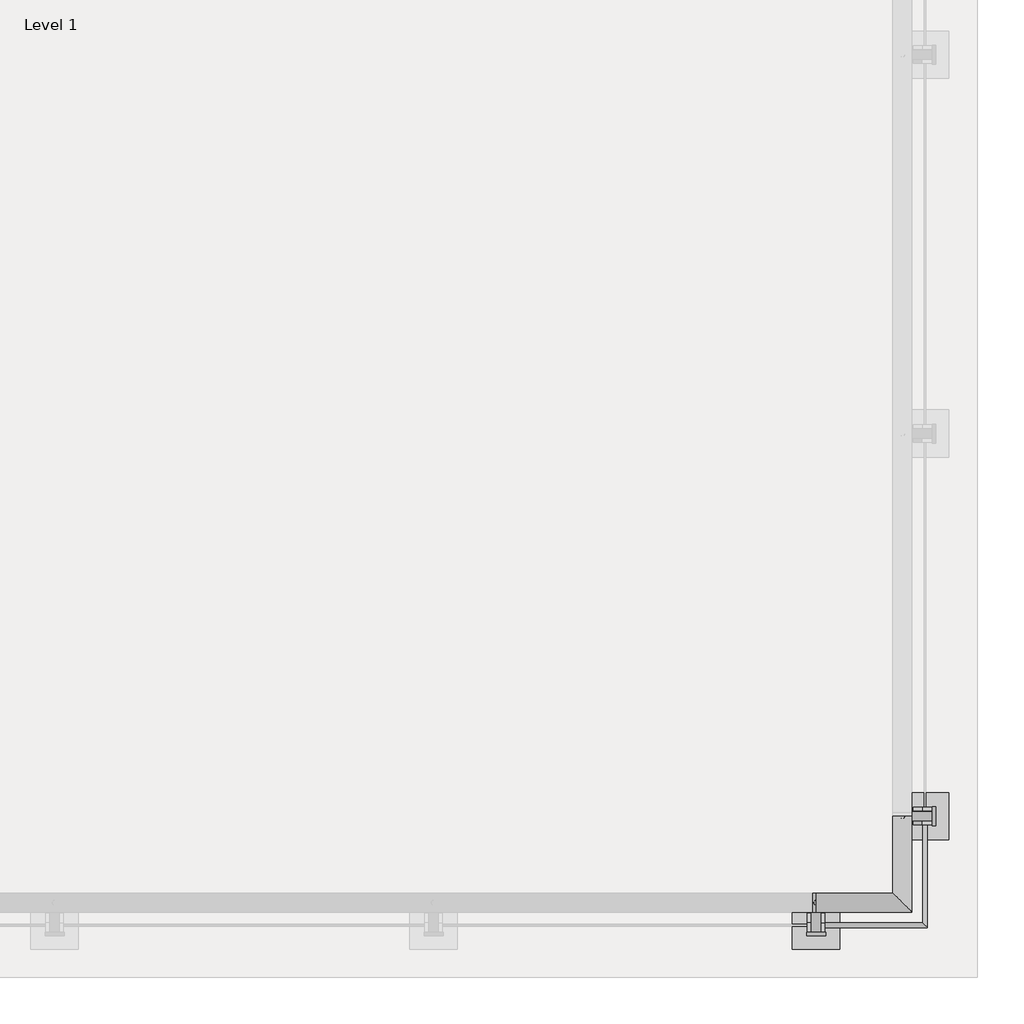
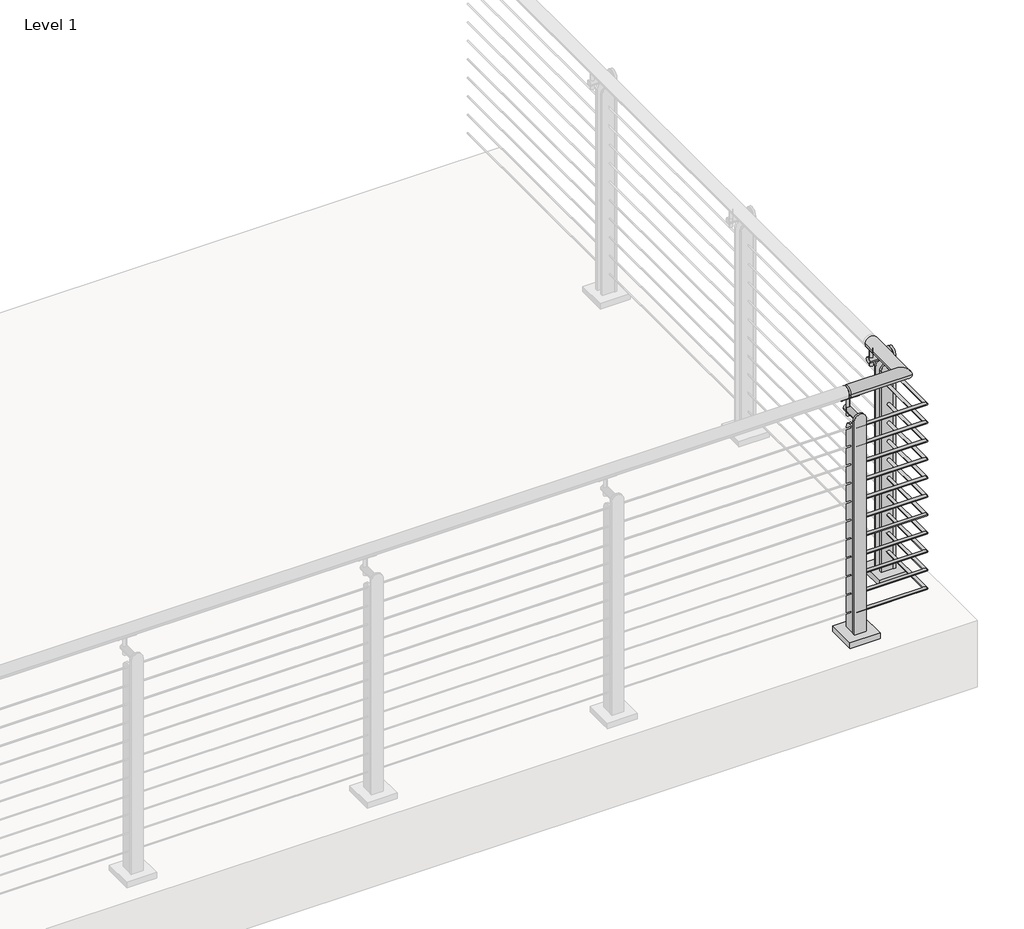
# One storey, part 4 of 9: 1 railing.
"""IFC4 building model written with IfcOpenShell, lengths in millimetres."""

import ifcopenshell
import ifcopenshell.guid

model = None  # the IFC model being written
_history = None  # IfcOwnerHistory: only IFC2X3 demands one
_inside = {}  # id of a spatial element -> (the spatial element, [elements in it])
_under = {}  # id of a project, library or spatial element -> (it, [spatial elements below it])
_declared = {}  # id of a project -> (the project, [libraries it declares])
_typed = {}  # id of a type object -> (the type object, [elements of that type])
_made_of = {}  # id of a material, layer set ... -> (it, [elements and type objects made of it])


def new_model(schema):
    """Start an empty IFC model of exactly this schema.

    Asked for "IFC4X3", IfcOpenShell would pick the latest addendum, in which some entities
    have other attributes; the version numbers below select the first issue.
    IFC2X3 requires an IfcOwnerHistory on every rooted entity: one is made here for all.
    """
    global model, _history
    if schema == "IFC4X3":
        model = ifcopenshell.file(schema_version=(4, 3, 0, 0))
    else:
        model = ifcopenshell.file(schema=schema)
    _inside.clear()
    _under.clear()
    _declared.clear()
    _typed.clear()
    _made_of.clear()
    _history = None
    if model.schema == "IFC2X3":
        org = make("IfcOrganization", Name="unknown")
        user = make(
            "IfcPersonAndOrganization",
            ThePerson=make("IfcPerson", FamilyName="unknown"),
            TheOrganization=org,
        )
        app = make(
            "IfcApplication",
            ApplicationDeveloper=org,
            Version="unknown",
            ApplicationFullName="unknown",
            ApplicationIdentifier="unknown",
        )
        _history = make(
            "IfcOwnerHistory",
            OwningUser=user,
            OwningApplication=app,
            ChangeAction="ADDED",
            CreationDate=0,
        )
    return model


def make(cls, **values):
    """One entity of the class cls with the attributes given. An attribute that is None is left unset."""
    return model.create_entity(
        cls, **{name: value for name, value in values.items() if value is not None}
    )


def rooted(cls, **values):
    """An entity with a GlobalId (a new one), such as an element, a storey or a relation."""
    return make(cls, GlobalId=ifcopenshell.guid.new(), OwnerHistory=_history, **values)


def si_unit(unit_type, name, prefix=None):
    """IfcSIUnit, for example si_unit("LENGTHUNIT", "METRE", prefix="MILLI")."""
    return make("IfcSIUnit", UnitType=unit_type, Prefix=prefix, Name=name)


def assignment(units):
    """IfcUnitAssignment: the units of a project."""
    return None if units is None else make("IfcUnitAssignment", Units=units)


def point(xyz):
    """IfcCartesianPoint."""
    return None if xyz is None else make("IfcCartesianPoint", Coordinates=xyz)


def direction(xyz):
    """IfcDirection."""
    return None if xyz is None else make("IfcDirection", DirectionRatios=xyz)


def frame(location, z_axis=None, x_axis=None):
    """IfcAxis2Placement3D, a coordinate frame: its origin and axes. An axis left out is left unset."""
    return make(
        "IfcAxis2Placement3D",
        Location=point(location),
        Axis=direction(z_axis),
        RefDirection=direction(x_axis),
    )


def frame_2d(location, x_axis=None):
    """IfcAxis2Placement2D, a coordinate frame in the plane: its origin and x axis."""
    return make(
        "IfcAxis2Placement2D", Location=point(location), RefDirection=direction(x_axis)
    )


def origin():
    """The frame at (0, 0, 0) with its axes left unset."""
    return frame((0.0, 0.0, 0.0))


def origin_with_axes():
    """The frame at (0, 0, 0) with the z axis (0, 0, 1) and the x axis (1, 0, 0) written out."""
    return frame((0.0, 0.0, 0.0), z_axis=(0.0, 0.0, 1.0), x_axis=(1.0, 0.0, 0.0))


def place(relative_to, where):
    """IfcLocalPlacement: puts the frame where relative to a parent placement (None: the world)."""
    return make(
        "IfcLocalPlacement", PlacementRelTo=relative_to, RelativePlacement=where
    )


def context(
    kind, dimensions, precision=None, world=None, true_north=None, identifier=None
):
    """IfcGeometricRepresentationContext, for example the 3D "Model" context."""
    return make(
        "IfcGeometricRepresentationContext",
        ContextIdentifier=identifier,
        ContextType=kind,
        CoordinateSpaceDimension=dimensions,
        Precision=precision,
        WorldCoordinateSystem=world,
        TrueNorth=true_north,
    )


def project(units=None, contexts=None):
    """IfcProject with its units and contexts."""
    return rooted(
        "IfcProject",
        Name="project",
        RepresentationContexts=contexts,
        UnitsInContext=assignment(units),
    )


def spatial(cls, under=None, at=None, **own):
    """A site, building, storey or space (cls), placed at a placement, below another one or the project."""
    s = rooted(cls, ObjectPlacement=at, **own)
    if under is not None:
        _under.setdefault(under.id(), (under, []))[1].append(s)
    return s


def polyline(points):
    """IfcPolyline through the points."""
    return make("IfcPolyline", Points=[point(p) for p in points])


def circle_curve(where, radius):
    """IfcCircle in the frame where."""
    return make("IfcCircle", Position=where, Radius=radius)


def ellipse_curve(where, semi_axis1, semi_axis2):
    """IfcEllipse in the frame where."""
    return make(
        "IfcEllipse", Position=where, SemiAxis1=semi_axis1, SemiAxis2=semi_axis2
    )


def trimmed(basis, trim1, trim2, sense, master):
    """IfcTrimmedCurve: the piece of a basis curve between two trims."""
    return make(
        "IfcTrimmedCurve",
        BasisCurve=basis,
        Trim1=trim1,
        Trim2=trim2,
        SenseAgreement=sense,
        MasterRepresentation=master,
    )


def segment(curve, same_sense, transition):
    """IfcCompositeCurveSegment."""
    return make(
        "IfcCompositeCurveSegment",
        Transition=transition,
        SameSense=same_sense,
        ParentCurve=curve,
    )


def composite_curve(segments, self_intersect=None):
    """IfcCompositeCurve: segments joined end to end."""
    return make("IfcCompositeCurve", Segments=segments, SelfIntersect=self_intersect)


def outline(outer, holes=None, kind="AREA"):
    """IfcArbitraryClosedProfileDef: a profile drawn as a closed curve; with holes, ...WithVoids."""
    if holes is None:
        return make("IfcArbitraryClosedProfileDef", ProfileType=kind, OuterCurve=outer)
    return make(
        "IfcArbitraryProfileDefWithVoids",
        ProfileType=kind,
        OuterCurve=outer,
        InnerCurves=holes,
    )


def extrude(swept, where, along, depth):
    """IfcExtrudedAreaSolid: the profile swept, set in the frame where, extruded along a direction by depth."""
    return make(
        "IfcExtrudedAreaSolid",
        SweptArea=swept,
        Position=where,
        ExtrudedDirection=direction(along),
        Depth=depth,
    )


def shape(context_of_items, identifier, shape_type, items):
    """IfcShapeRepresentation: the items that make up one representation, for example the "Body"."""
    return make(
        "IfcShapeRepresentation",
        ContextOfItems=context_of_items,
        RepresentationIdentifier=identifier,
        RepresentationType=shape_type,
        Items=items,
    )


def made_of(thing, what):
    """Note that an element or type object is made of a material, layer set ...; save() writes the relation."""
    if what is not None:
        _made_of.setdefault(what.id(), (what, []))[1].append(thing)
    return thing


def element(
    cls,
    number,
    at=None,
    inside=None,
    cuts=None,
    type_object=None,
    material=None,
    context=None,
    identifier="Body",
    shape_type=None,
    held_by="IfcProductDefinitionShape",
    body=None,
    shapes=None,
    **own,
):
    """One element of the class cls, such as IfcWall. Its Tag is "e" and its number.

    at: its placement. inside: the storey or other place that contains it. cuts: it is an
    opening in that element (IfcRelVoidsElement). A single representation is given by context,
    identifier, shape_type and body (its items); several are given by shapes. held_by: the class
    of the entity that holds the representations. save() writes the other relations.
    """
    e = rooted(cls, Tag="e%d" % number, ObjectPlacement=at, **own)
    if body is not None:
        shapes = [shape(context, identifier, shape_type, body)]
    if shapes is not None:
        e.Representation = make(held_by, Representations=shapes)
    if inside is not None:
        _inside.setdefault(inside.id(), (inside, []))[1].append(e)
    if cuts is not None:
        rooted(
            "IfcRelVoidsElement", RelatingBuildingElement=cuts, RelatedOpeningElement=e
        )
    if type_object is not None:
        _typed.setdefault(type_object.id(), (type_object, []))[1].append(e)
    return made_of(e, material)


def aggregate(whole, parts):
    """IfcRelAggregates: a whole, such as a stair, and the parts it consists of."""
    return rooted("IfcRelAggregates", RelatingObject=whole, RelatedObjects=parts)


def save(model, path):
    """Write the relations noted so far, then the file.

    IfcRelAggregates (storeys below a building ...), IfcRelContainedInSpatialStructure (elements
    in a storey), IfcRelDefinesByType, IfcRelAssociatesMaterial and IfcRelDeclares: one each for
    every whole, place, type object, material and project.
    """
    for whole, parts in _under.values():
        aggregate(whole, parts)
    for where, things in _inside.values():
        rooted(
            "IfcRelContainedInSpatialStructure",
            RelatedElements=things,
            RelatingStructure=where,
        )
    for kind, things in _typed.values():
        rooted("IfcRelDefinesByType", RelatedObjects=things, RelatingType=kind)
    for what, things in _made_of.values():
        rooted("IfcRelAssociatesMaterial", RelatedObjects=things, RelatingMaterial=what)
    for by, libraries in _declared.values():
        rooted("IfcRelDeclares", RelatingContext=by, RelatedDefinitions=libraries)
    model.write(path)


def plane_surface(at):
    """IfcPlane: the flat surface through the origin of the frame at, square to its z axis."""
    return make("IfcPlane", Position=at)


def cylinder_surface(at, radius):
    """IfcCylindricalSurface: all points at the distance radius from the z axis of the frame at."""
    return make("IfcCylindricalSurface", Position=at, Radius=radius)


def advanced_brep(points, edges, surfaces, faces):
    """IfcAdvancedBrep: a solid bounded by faces that lie on surfaces and meet in shared edges.

    An edge is (start, end): straight between two places in points (the first is 0);
    or (start, end, curve); or (start, end, curve, False) where it runs against its curve.
    A face is (place in surfaces, loops), or (place, loops, False) where it looks against
    its surface's normal. A loop lists edges by number (the first is 1), with a minus sign
    where the edge is run from its end to its start. The first loop is the outer one.
    """
    corners = [point(p) for p in points]
    vertices = [make("IfcVertexPoint", VertexGeometry=c) for c in corners]
    made = []
    for start, end, *more in edges:
        made.append(
            make(
                "IfcEdgeCurve",
                EdgeStart=vertices[start],
                EdgeEnd=vertices[end],
                EdgeGeometry=more[0] if more else make("IfcPolyline", Points=[corners[start], corners[end]]),
                SameSense=more[1] if len(more) > 1 else True,
            )
        )
    hull = []
    for where, loops, *sense in faces:
        bounds = []
        for j, loop in enumerate(loops):
            ring = [make("IfcOrientedEdge", EdgeElement=made[abs(k) - 1], Orientation=k > 0) for k in loop]
            bounds.append(
                make(
                    "IfcFaceOuterBound" if j == 0 else "IfcFaceBound",
                    Bound=make("IfcEdgeLoop", EdgeList=ring),
                    Orientation=True,
                )
            )
        hull.append(make("IfcAdvancedFace", Bounds=bounds, FaceSurface=surfaces[where], SameSense=sense[0] if sense else True))
    return make("IfcAdvancedBrep", Outer=make("IfcClosedShell", CfsFaces=hull))


model = new_model("IFC4")

# Units and contexts
model_context = context("Model", 3, world=origin())
ifc_project = project(units=[si_unit("LENGTHUNIT", "METRE", prefix="MILLI")], contexts=[model_context])

# Site, building, storey
site = spatial("IfcSite", under=ifc_project)
building = spatial("IfcBuilding", under=site)
storey = spatial("IfcBuildingStorey", under=building, Name="Level 1", Elevation=0.0)

# Railing
placement = place(None, origin())
element("IfcRailing", 1, ObjectType="VIVA-TEE-Cable-Floor Mount-Corner", at=placement, inside=storey, context=model_context, shape_type="SolidModel", body=[
    advanced_brep(
    [(-5377.0144753, -40358.8476373, 1054.1), (-5377.0144753, -40409.6476373, 1054.1), (-5119.8394753, -40409.6476373, 1054.1), (-5170.6394753, -40358.8476373, 1054.1), (-5386.7436688, -40409.6476373, 1054.1), (-5386.7436688, -40358.8476373, 1054.1), (-5119.8394753, -40152.4726373, 1054.1), (-5170.6394753, -40152.4726373, 1054.1)],
    [
        (0, 1, circle_curve(frame((-5377.0144753, -40384.2476373, 1054.1), z_axis=(1.0, 0.0, 0.0), x_axis=(0.0, 1.0, 0.0)), 25.4)),
        (1, 2),
        (2, 3, ellipse_curve(frame((-5145.2394753, -40384.2476373, 1054.1), z_axis=(-0.7071067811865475, -0.7071067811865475, 0.0), x_axis=(-0.7071067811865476, 0.7071067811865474, 0.0)), 35.9210245, 25.4)),
        (3, 0),
        (1, 0, circle_curve(frame((-5377.0144753, -40384.2476373, 1054.1), z_axis=(1.0, 0.0, 0.0), x_axis=(0.0, 1.0, 0.0)), 25.4)),
        (3, 2, ellipse_curve(frame((-5145.2394753, -40384.2476373, 1054.1), z_axis=(-0.7071067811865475, -0.7071067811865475, 0.0), x_axis=(-0.7071067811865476, 0.7071067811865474, 0.0)), 35.9210245, 25.4)),
        (4, 5, circle_curve(frame((-5386.7436688, -40384.2476373, 1054.1), z_axis=(-1.0, 0.0, 0.0), x_axis=(0.0, 1.0, 0.0)), 25.4)),
        (5, 4, circle_curve(frame((-5386.7436688, -40384.2476373, 1054.1), z_axis=(-1.0, 0.0, 0.0), x_axis=(0.0, 1.0, 0.0)), 25.4)),
        (4, 1),
        (0, 5),
        (6, 7, circle_curve(frame((-5145.2394753, -40152.4726373, 1054.1), z_axis=(0.0, 1.0, 0.0), x_axis=(-1.0, 0.0, 0.0)), 25.4)),
        (7, 6, circle_curve(frame((-5145.2394753, -40152.4726373, 1054.1), z_axis=(0.0, 1.0, 0.0), x_axis=(-1.0, 0.0, 0.0)), 25.4)),
        (2, 6),
        (7, 3),
    ],
    [
        cylinder_surface(frame((-5377.0144753, -40384.2476373, 1054.1), z_axis=(-1.0, 0.0, 0.0), x_axis=(0.0, 1.0, 0.0)), 25.4),
        plane_surface(frame((-5386.7436688, -40384.2476373, 1079.5), z_axis=(-1.0, 0.0, 0.0), x_axis=(0.0, 1.0, 0.0))),
        cylinder_surface(frame((-5386.7436688, -40384.2476373, 1054.1), z_axis=(-1.0, 0.0, 0.0), x_axis=(0.0, 1.0, 0.0)), 25.4),
        plane_surface(frame((-5145.2394753, -40152.4726373, 1079.5), z_axis=(0.0, 1.0, 0.0), x_axis=(0.0, 0.0, 1.0))),
        cylinder_surface(frame((-5145.2394753, -40384.2476373, 1054.1), z_axis=(0.0, -1.0, 0.0), x_axis=(-1.0, 0.0, 0.0)), 25.4),
    ],
    [
        (0, [[1, 2, 3, 4]]),
        (0, [[5, -4, 6, -2]]),
        (1, [[7, 8]]),
        (2, [[-7, 9, -1, 10]]),
        (2, [[-8, -10, -5, -9]]),
        (3, [[11, 12]]),
        (4, [[-3, 13, -12, 14]]),
        (4, [[-6, -14, -11, -13]]),
    ],
),
    advanced_brep(
    [(-5377.0144753, -40438.2226373, 933.45), (-5377.0144753, -40450.9226373, 933.45), (-5091.2644753, -40438.2226373, 933.45), (-5078.5644753, -40450.9226373, 933.45), (-5091.2644753, -40152.4726373, 933.45), (-5078.5644753, -40152.4726373, 933.45)],
    [
        (0, 1, circle_curve(frame((-5377.0144753, -40444.5726373, 933.45), z_axis=(-1.0, 0.0, 0.0), x_axis=(0.0, -1.0, 0.0)), 6.35)),
        (1, 0, circle_curve(frame((-5377.0144753, -40444.5726373, 933.45), z_axis=(-1.0, 0.0, 0.0), x_axis=(0.0, -1.0, 0.0)), 6.35)),
        (0, 2),
        (2, 3, ellipse_curve(frame((-5084.9144753, -40444.5726373, 933.45), z_axis=(-0.7071067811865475, -0.7071067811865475, 0.0), x_axis=(-0.7071067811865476, 0.7071067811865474, 0.0)), 8.9802561, 6.35)),
        (3, 1),
        (3, 2, ellipse_curve(frame((-5084.9144753, -40444.5726373, 933.45), z_axis=(-0.7071067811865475, -0.7071067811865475, 0.0), x_axis=(-0.7071067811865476, 0.7071067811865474, 0.0)), 8.9802561, 6.35)),
        (4, 5, circle_curve(frame((-5084.9144753, -40152.4726373, 933.45), z_axis=(0.0, 1.0, 0.0), x_axis=(1.0, 0.0, 0.0)), 6.35)),
        (5, 4, circle_curve(frame((-5084.9144753, -40152.4726373, 933.45), z_axis=(0.0, 1.0, 0.0), x_axis=(1.0, 0.0, 0.0)), 6.35)),
        (2, 4),
        (5, 3),
    ],
    [
        plane_surface(frame((-5377.0144753, -40444.5726373, 939.8), z_axis=(-1.0, 0.0, 0.0), x_axis=(0.0, 1.0, 0.0))),
        cylinder_surface(frame((-5377.0144753, -40444.5726373, 933.45), z_axis=(-1.0, 0.0, 0.0), x_axis=(0.0, -1.0, 0.0)), 6.35),
        plane_surface(frame((-5084.9144753, -40152.4726373, 939.8), z_axis=(0.0, 1.0, 0.0), x_axis=(0.0, 0.0, 1.0))),
        cylinder_surface(frame((-5084.9144753, -40444.5726373, 933.45), z_axis=(0.0, -1.0, 0.0), x_axis=(1.0, 0.0, 0.0)), 6.35),
    ],
    [
        (0, [[1, 2]]),
        (1, [[-1, 3, 4, 5]]),
        (1, [[-2, -5, 6, -3]]),
        (2, [[7, 8]]),
        (3, [[-4, 9, -8, 10]]),
        (3, [[-6, -10, -7, -9]]),
    ],
),
    advanced_brep(
    [(-5377.0144753, -40438.2226373, 850.9), (-5377.0144753, -40450.9226373, 850.9), (-5091.2644753, -40438.2226373, 850.9), (-5078.5644753, -40450.9226373, 850.9), (-5091.2644753, -40152.4726373, 850.9), (-5078.5644753, -40152.4726373, 850.9)],
    [
        (0, 1, circle_curve(frame((-5377.0144753, -40444.5726373, 850.9), z_axis=(-1.0, 0.0, 0.0), x_axis=(0.0, -1.0, 0.0)), 6.35)),
        (1, 0, circle_curve(frame((-5377.0144753, -40444.5726373, 850.9), z_axis=(-1.0, 0.0, 0.0), x_axis=(0.0, -1.0, 0.0)), 6.35)),
        (0, 2),
        (2, 3, ellipse_curve(frame((-5084.9144753, -40444.5726373, 850.9), z_axis=(-0.7071067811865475, -0.7071067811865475, 0.0), x_axis=(-0.7071067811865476, 0.7071067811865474, 0.0)), 8.9802561, 6.35)),
        (3, 1),
        (3, 2, ellipse_curve(frame((-5084.9144753, -40444.5726373, 850.9), z_axis=(-0.7071067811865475, -0.7071067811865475, 0.0), x_axis=(-0.7071067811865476, 0.7071067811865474, 0.0)), 8.9802561, 6.35)),
        (4, 5, circle_curve(frame((-5084.9144753, -40152.4726373, 850.9), z_axis=(0.0, 1.0, 0.0), x_axis=(1.0, 0.0, 0.0)), 6.35)),
        (5, 4, circle_curve(frame((-5084.9144753, -40152.4726373, 850.9), z_axis=(0.0, 1.0, 0.0), x_axis=(1.0, 0.0, 0.0)), 6.35)),
        (2, 4),
        (5, 3),
    ],
    [
        plane_surface(frame((-5377.0144753, -40444.5726373, 857.25), z_axis=(-1.0, 0.0, 0.0), x_axis=(0.0, 1.0, 0.0))),
        cylinder_surface(frame((-5377.0144753, -40444.5726373, 850.9), z_axis=(-1.0, 0.0, 0.0), x_axis=(0.0, -1.0, 0.0)), 6.35),
        plane_surface(frame((-5084.9144753, -40152.4726373, 857.25), z_axis=(0.0, 1.0, 0.0), x_axis=(0.0, 0.0, 1.0))),
        cylinder_surface(frame((-5084.9144753, -40444.5726373, 850.9), z_axis=(0.0, -1.0, 0.0), x_axis=(1.0, 0.0, 0.0)), 6.35),
    ],
    [
        (0, [[1, 2]]),
        (1, [[-1, 3, 4, 5]]),
        (1, [[-2, -5, 6, -3]]),
        (2, [[7, 8]]),
        (3, [[-4, 9, -8, 10]]),
        (3, [[-6, -10, -7, -9]]),
    ],
),
    advanced_brep(
    [(-5377.0144753, -40438.2226373, 768.35), (-5377.0144753, -40450.9226373, 768.35), (-5091.2644753, -40438.2226373, 768.35), (-5078.5644753, -40450.9226373, 768.35), (-5091.2644753, -40152.4726373, 768.35), (-5078.5644753, -40152.4726373, 768.35)],
    [
        (0, 1, circle_curve(frame((-5377.0144753, -40444.5726373, 768.35), z_axis=(-1.0, 0.0, 0.0), x_axis=(0.0, -1.0, 0.0)), 6.35)),
        (1, 0, circle_curve(frame((-5377.0144753, -40444.5726373, 768.35), z_axis=(-1.0, 0.0, 0.0), x_axis=(0.0, -1.0, 0.0)), 6.35)),
        (0, 2),
        (2, 3, ellipse_curve(frame((-5084.9144753, -40444.5726373, 768.35), z_axis=(-0.7071067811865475, -0.7071067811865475, 0.0), x_axis=(-0.7071067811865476, 0.7071067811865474, 0.0)), 8.9802561, 6.35)),
        (3, 1),
        (3, 2, ellipse_curve(frame((-5084.9144753, -40444.5726373, 768.35), z_axis=(-0.7071067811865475, -0.7071067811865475, 0.0), x_axis=(-0.7071067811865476, 0.7071067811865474, 0.0)), 8.9802561, 6.35)),
        (4, 5, circle_curve(frame((-5084.9144753, -40152.4726373, 768.35), z_axis=(0.0, 1.0, 0.0), x_axis=(1.0, 0.0, 0.0)), 6.35)),
        (5, 4, circle_curve(frame((-5084.9144753, -40152.4726373, 768.35), z_axis=(0.0, 1.0, 0.0), x_axis=(1.0, 0.0, 0.0)), 6.35)),
        (2, 4),
        (5, 3),
    ],
    [
        plane_surface(frame((-5377.0144753, -40444.5726373, 774.7), z_axis=(-1.0, 0.0, 0.0), x_axis=(0.0, 1.0, 0.0))),
        cylinder_surface(frame((-5377.0144753, -40444.5726373, 768.35), z_axis=(-1.0, 0.0, 0.0), x_axis=(0.0, -1.0, 0.0)), 6.35),
        plane_surface(frame((-5084.9144753, -40152.4726373, 774.7), z_axis=(0.0, 1.0, 0.0), x_axis=(0.0, 0.0, 1.0))),
        cylinder_surface(frame((-5084.9144753, -40444.5726373, 768.35), z_axis=(0.0, -1.0, 0.0), x_axis=(1.0, 0.0, 0.0)), 6.35),
    ],
    [
        (0, [[1, 2]]),
        (1, [[-1, 3, 4, 5]]),
        (1, [[-2, -5, 6, -3]]),
        (2, [[7, 8]]),
        (3, [[-4, 9, -8, 10]]),
        (3, [[-6, -10, -7, -9]]),
    ],
),
    advanced_brep(
    [(-5377.0144753, -40438.2226373, 685.8), (-5377.0144753, -40450.9226373, 685.8), (-5091.2644753, -40438.2226373, 685.8), (-5078.5644753, -40450.9226373, 685.8), (-5091.2644753, -40152.4726373, 685.8), (-5078.5644753, -40152.4726373, 685.8)],
    [
        (0, 1, circle_curve(frame((-5377.0144753, -40444.5726373, 685.8), z_axis=(-1.0, 0.0, 0.0), x_axis=(0.0, -1.0, 0.0)), 6.35)),
        (1, 0, circle_curve(frame((-5377.0144753, -40444.5726373, 685.8), z_axis=(-1.0, 0.0, 0.0), x_axis=(0.0, -1.0, 0.0)), 6.35)),
        (0, 2),
        (2, 3, ellipse_curve(frame((-5084.9144753, -40444.5726373, 685.8), z_axis=(-0.7071067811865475, -0.7071067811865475, 0.0), x_axis=(-0.7071067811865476, 0.7071067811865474, 0.0)), 8.9802561, 6.35)),
        (3, 1),
        (3, 2, ellipse_curve(frame((-5084.9144753, -40444.5726373, 685.8), z_axis=(-0.7071067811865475, -0.7071067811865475, 0.0), x_axis=(-0.7071067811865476, 0.7071067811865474, 0.0)), 8.9802561, 6.35)),
        (4, 5, circle_curve(frame((-5084.9144753, -40152.4726373, 685.8), z_axis=(0.0, 1.0, 0.0), x_axis=(1.0, 0.0, 0.0)), 6.35)),
        (5, 4, circle_curve(frame((-5084.9144753, -40152.4726373, 685.8), z_axis=(0.0, 1.0, 0.0), x_axis=(1.0, 0.0, 0.0)), 6.35)),
        (2, 4),
        (5, 3),
    ],
    [
        plane_surface(frame((-5377.0144753, -40444.5726373, 692.15), z_axis=(-1.0, 0.0, 0.0), x_axis=(0.0, 1.0, 0.0))),
        cylinder_surface(frame((-5377.0144753, -40444.5726373, 685.8), z_axis=(-1.0, 0.0, 0.0), x_axis=(0.0, -1.0, 0.0)), 6.35),
        plane_surface(frame((-5084.9144753, -40152.4726373, 692.15), z_axis=(0.0, 1.0, 0.0), x_axis=(0.0, 0.0, 1.0))),
        cylinder_surface(frame((-5084.9144753, -40444.5726373, 685.8), z_axis=(0.0, -1.0, 0.0), x_axis=(1.0, 0.0, 0.0)), 6.35),
    ],
    [
        (0, [[1, 2]]),
        (1, [[-1, 3, 4, 5]]),
        (1, [[-2, -5, 6, -3]]),
        (2, [[7, 8]]),
        (3, [[-4, 9, -8, 10]]),
        (3, [[-6, -10, -7, -9]]),
    ],
),
    advanced_brep(
    [(-5377.0144753, -40438.2226373, 603.25), (-5377.0144753, -40450.9226373, 603.25), (-5091.2644753, -40438.2226373, 603.25), (-5078.5644753, -40450.9226373, 603.25), (-5091.2644753, -40152.4726373, 603.25), (-5078.5644753, -40152.4726373, 603.25)],
    [
        (0, 1, circle_curve(frame((-5377.0144753, -40444.5726373, 603.25), z_axis=(-1.0, 0.0, 0.0), x_axis=(0.0, -1.0, 0.0)), 6.35)),
        (1, 0, circle_curve(frame((-5377.0144753, -40444.5726373, 603.25), z_axis=(-1.0, 0.0, 0.0), x_axis=(0.0, -1.0, 0.0)), 6.35)),
        (0, 2),
        (2, 3, ellipse_curve(frame((-5084.9144753, -40444.5726373, 603.25), z_axis=(-0.7071067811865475, -0.7071067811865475, 0.0), x_axis=(-0.7071067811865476, 0.7071067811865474, 0.0)), 8.9802561, 6.35)),
        (3, 1),
        (3, 2, ellipse_curve(frame((-5084.9144753, -40444.5726373, 603.25), z_axis=(-0.7071067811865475, -0.7071067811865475, 0.0), x_axis=(-0.7071067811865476, 0.7071067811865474, 0.0)), 8.9802561, 6.35)),
        (4, 5, circle_curve(frame((-5084.9144753, -40152.4726373, 603.25), z_axis=(0.0, 1.0, 0.0), x_axis=(1.0, 0.0, 0.0)), 6.35)),
        (5, 4, circle_curve(frame((-5084.9144753, -40152.4726373, 603.25), z_axis=(0.0, 1.0, 0.0), x_axis=(1.0, 0.0, 0.0)), 6.35)),
        (2, 4),
        (5, 3),
    ],
    [
        plane_surface(frame((-5377.0144753, -40444.5726373, 609.6), z_axis=(-1.0, 0.0, 0.0), x_axis=(0.0, 1.0, 0.0))),
        cylinder_surface(frame((-5377.0144753, -40444.5726373, 603.25), z_axis=(-1.0, 0.0, 0.0), x_axis=(0.0, -1.0, 0.0)), 6.35),
        plane_surface(frame((-5084.9144753, -40152.4726373, 609.6), z_axis=(0.0, 1.0, 0.0), x_axis=(0.0, 0.0, 1.0))),
        cylinder_surface(frame((-5084.9144753, -40444.5726373, 603.25), z_axis=(0.0, -1.0, 0.0), x_axis=(1.0, 0.0, 0.0)), 6.35),
    ],
    [
        (0, [[1, 2]]),
        (1, [[-1, 3, 4, 5]]),
        (1, [[-2, -5, 6, -3]]),
        (2, [[7, 8]]),
        (3, [[-4, 9, -8, 10]]),
        (3, [[-6, -10, -7, -9]]),
    ],
),
    advanced_brep(
    [(-5377.0144753, -40438.2226373, 520.7), (-5377.0144753, -40450.9226373, 520.7), (-5091.2644753, -40438.2226373, 520.7), (-5078.5644753, -40450.9226373, 520.7), (-5091.2644753, -40152.4726373, 520.7), (-5078.5644753, -40152.4726373, 520.7)],
    [
        (0, 1, circle_curve(frame((-5377.0144753, -40444.5726373, 520.7), z_axis=(-1.0, 0.0, 0.0), x_axis=(0.0, -1.0, 0.0)), 6.35)),
        (1, 0, circle_curve(frame((-5377.0144753, -40444.5726373, 520.7), z_axis=(-1.0, 0.0, 0.0), x_axis=(0.0, -1.0, 0.0)), 6.35)),
        (0, 2),
        (2, 3, ellipse_curve(frame((-5084.9144753, -40444.5726373, 520.7), z_axis=(-0.7071067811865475, -0.7071067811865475, 0.0), x_axis=(-0.7071067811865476, 0.7071067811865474, 0.0)), 8.9802561, 6.35)),
        (3, 1),
        (3, 2, ellipse_curve(frame((-5084.9144753, -40444.5726373, 520.7), z_axis=(-0.7071067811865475, -0.7071067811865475, 0.0), x_axis=(-0.7071067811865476, 0.7071067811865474, 0.0)), 8.9802561, 6.35)),
        (4, 5, circle_curve(frame((-5084.9144753, -40152.4726373, 520.7), z_axis=(0.0, 1.0, 0.0), x_axis=(1.0, 0.0, 0.0)), 6.35)),
        (5, 4, circle_curve(frame((-5084.9144753, -40152.4726373, 520.7), z_axis=(0.0, 1.0, 0.0), x_axis=(1.0, 0.0, 0.0)), 6.35)),
        (2, 4),
        (5, 3),
    ],
    [
        plane_surface(frame((-5377.0144753, -40444.5726373, 527.05), z_axis=(-1.0, 0.0, 0.0), x_axis=(0.0, 1.0, 0.0))),
        cylinder_surface(frame((-5377.0144753, -40444.5726373, 520.7), z_axis=(-1.0, 0.0, 0.0), x_axis=(0.0, -1.0, 0.0)), 6.35),
        plane_surface(frame((-5084.9144753, -40152.4726373, 527.05), z_axis=(0.0, 1.0, 0.0), x_axis=(0.0, 0.0, 1.0))),
        cylinder_surface(frame((-5084.9144753, -40444.5726373, 520.7), z_axis=(0.0, -1.0, 0.0), x_axis=(1.0, 0.0, 0.0)), 6.35),
    ],
    [
        (0, [[1, 2]]),
        (1, [[-1, 3, 4, 5]]),
        (1, [[-2, -5, 6, -3]]),
        (2, [[7, 8]]),
        (3, [[-4, 9, -8, 10]]),
        (3, [[-6, -10, -7, -9]]),
    ],
),
    advanced_brep(
    [(-5377.0144753, -40438.2226373, 438.15), (-5377.0144753, -40450.9226373, 438.15), (-5091.2644753, -40438.2226373, 438.15), (-5078.5644753, -40450.9226373, 438.15), (-5091.2644753, -40152.4726373, 438.15), (-5078.5644753, -40152.4726373, 438.15)],
    [
        (0, 1, circle_curve(frame((-5377.0144753, -40444.5726373, 438.15), z_axis=(-1.0, 0.0, 0.0), x_axis=(0.0, -1.0, 0.0)), 6.35)),
        (1, 0, circle_curve(frame((-5377.0144753, -40444.5726373, 438.15), z_axis=(-1.0, 0.0, 0.0), x_axis=(0.0, -1.0, 0.0)), 6.35)),
        (0, 2),
        (2, 3, ellipse_curve(frame((-5084.9144753, -40444.5726373, 438.15), z_axis=(-0.7071067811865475, -0.7071067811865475, 0.0), x_axis=(-0.7071067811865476, 0.7071067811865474, 0.0)), 8.9802561, 6.35)),
        (3, 1),
        (3, 2, ellipse_curve(frame((-5084.9144753, -40444.5726373, 438.15), z_axis=(-0.7071067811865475, -0.7071067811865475, 0.0), x_axis=(-0.7071067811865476, 0.7071067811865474, 0.0)), 8.9802561, 6.35)),
        (4, 5, circle_curve(frame((-5084.9144753, -40152.4726373, 438.15), z_axis=(0.0, 1.0, 0.0), x_axis=(1.0, 0.0, 0.0)), 6.35)),
        (5, 4, circle_curve(frame((-5084.9144753, -40152.4726373, 438.15), z_axis=(0.0, 1.0, 0.0), x_axis=(1.0, 0.0, 0.0)), 6.35)),
        (2, 4),
        (5, 3),
    ],
    [
        plane_surface(frame((-5377.0144753, -40444.5726373, 444.5), z_axis=(-1.0, 0.0, 0.0), x_axis=(0.0, 1.0, 0.0))),
        cylinder_surface(frame((-5377.0144753, -40444.5726373, 438.15), z_axis=(-1.0, 0.0, 0.0), x_axis=(0.0, -1.0, 0.0)), 6.35),
        plane_surface(frame((-5084.9144753, -40152.4726373, 444.5), z_axis=(0.0, 1.0, 0.0), x_axis=(0.0, 0.0, 1.0))),
        cylinder_surface(frame((-5084.9144753, -40444.5726373, 438.15), z_axis=(0.0, -1.0, 0.0), x_axis=(1.0, 0.0, 0.0)), 6.35),
    ],
    [
        (0, [[1, 2]]),
        (1, [[-1, 3, 4, 5]]),
        (1, [[-2, -5, 6, -3]]),
        (2, [[7, 8]]),
        (3, [[-4, 9, -8, 10]]),
        (3, [[-6, -10, -7, -9]]),
    ],
),
    advanced_brep(
    [(-5377.0144753, -40438.2226373, 355.6), (-5377.0144753, -40450.9226373, 355.6), (-5091.2644753, -40438.2226373, 355.6), (-5078.5644753, -40450.9226373, 355.6), (-5091.2644753, -40152.4726373, 355.6), (-5078.5644753, -40152.4726373, 355.6)],
    [
        (0, 1, circle_curve(frame((-5377.0144753, -40444.5726373, 355.6), z_axis=(-1.0, 0.0, 0.0), x_axis=(0.0, -1.0, 0.0)), 6.35)),
        (1, 0, circle_curve(frame((-5377.0144753, -40444.5726373, 355.6), z_axis=(-1.0, 0.0, 0.0), x_axis=(0.0, -1.0, 0.0)), 6.35)),
        (0, 2),
        (2, 3, ellipse_curve(frame((-5084.9144753, -40444.5726373, 355.6), z_axis=(-0.7071067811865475, -0.7071067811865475, 0.0), x_axis=(-0.7071067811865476, 0.7071067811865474, 0.0)), 8.9802561, 6.35)),
        (3, 1),
        (3, 2, ellipse_curve(frame((-5084.9144753, -40444.5726373, 355.6), z_axis=(-0.7071067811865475, -0.7071067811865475, 0.0), x_axis=(-0.7071067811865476, 0.7071067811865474, 0.0)), 8.9802561, 6.35)),
        (4, 5, circle_curve(frame((-5084.9144753, -40152.4726373, 355.6), z_axis=(0.0, 1.0, 0.0), x_axis=(1.0, 0.0, 0.0)), 6.35)),
        (5, 4, circle_curve(frame((-5084.9144753, -40152.4726373, 355.6), z_axis=(0.0, 1.0, 0.0), x_axis=(1.0, 0.0, 0.0)), 6.35)),
        (2, 4),
        (5, 3),
    ],
    [
        plane_surface(frame((-5377.0144753, -40444.5726373, 361.95), z_axis=(-1.0, 0.0, 0.0), x_axis=(0.0, 1.0, 0.0))),
        cylinder_surface(frame((-5377.0144753, -40444.5726373, 355.6), z_axis=(-1.0, 0.0, 0.0), x_axis=(0.0, -1.0, 0.0)), 6.35),
        plane_surface(frame((-5084.9144753, -40152.4726373, 361.95), z_axis=(0.0, 1.0, 0.0), x_axis=(0.0, 0.0, 1.0))),
        cylinder_surface(frame((-5084.9144753, -40444.5726373, 355.6), z_axis=(0.0, -1.0, 0.0), x_axis=(1.0, 0.0, 0.0)), 6.35),
    ],
    [
        (0, [[1, 2]]),
        (1, [[-1, 3, 4, 5]]),
        (1, [[-2, -5, 6, -3]]),
        (2, [[7, 8]]),
        (3, [[-4, 9, -8, 10]]),
        (3, [[-6, -10, -7, -9]]),
    ],
),
    advanced_brep(
    [(-5377.0144753, -40438.2226373, 273.05), (-5377.0144753, -40450.9226373, 273.05), (-5091.2644753, -40438.2226373, 273.05), (-5078.5644753, -40450.9226373, 273.05), (-5091.2644753, -40152.4726373, 273.05), (-5078.5644753, -40152.4726373, 273.05)],
    [
        (0, 1, circle_curve(frame((-5377.0144753, -40444.5726373, 273.05), z_axis=(-1.0, 0.0, 0.0), x_axis=(0.0, -1.0, 0.0)), 6.35)),
        (1, 0, circle_curve(frame((-5377.0144753, -40444.5726373, 273.05), z_axis=(-1.0, 0.0, 0.0), x_axis=(0.0, -1.0, 0.0)), 6.35)),
        (0, 2),
        (2, 3, ellipse_curve(frame((-5084.9144753, -40444.5726373, 273.05), z_axis=(-0.7071067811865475, -0.7071067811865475, 0.0), x_axis=(-0.7071067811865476, 0.7071067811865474, 0.0)), 8.9802561, 6.35)),
        (3, 1),
        (3, 2, ellipse_curve(frame((-5084.9144753, -40444.5726373, 273.05), z_axis=(-0.7071067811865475, -0.7071067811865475, 0.0), x_axis=(-0.7071067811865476, 0.7071067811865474, 0.0)), 8.9802561, 6.35)),
        (4, 5, circle_curve(frame((-5084.9144753, -40152.4726373, 273.05), z_axis=(0.0, 1.0, 0.0), x_axis=(1.0, 0.0, 0.0)), 6.35)),
        (5, 4, circle_curve(frame((-5084.9144753, -40152.4726373, 273.05), z_axis=(0.0, 1.0, 0.0), x_axis=(1.0, 0.0, 0.0)), 6.35)),
        (2, 4),
        (5, 3),
    ],
    [
        plane_surface(frame((-5377.0144753, -40444.5726373, 279.4), z_axis=(-1.0, 0.0, 0.0), x_axis=(0.0, 1.0, 0.0))),
        cylinder_surface(frame((-5377.0144753, -40444.5726373, 273.05), z_axis=(-1.0, 0.0, 0.0), x_axis=(0.0, -1.0, 0.0)), 6.35),
        plane_surface(frame((-5084.9144753, -40152.4726373, 279.4), z_axis=(0.0, 1.0, 0.0), x_axis=(0.0, 0.0, 1.0))),
        cylinder_surface(frame((-5084.9144753, -40444.5726373, 273.05), z_axis=(0.0, -1.0, 0.0), x_axis=(1.0, 0.0, 0.0)), 6.35),
    ],
    [
        (0, [[1, 2]]),
        (1, [[-1, 3, 4, 5]]),
        (1, [[-2, -5, 6, -3]]),
        (2, [[7, 8]]),
        (3, [[-4, 9, -8, 10]]),
        (3, [[-6, -10, -7, -9]]),
    ],
),
    advanced_brep(
    [(-5377.0144753, -40438.2226373, 190.5), (-5377.0144753, -40450.9226373, 190.5), (-5091.2644753, -40438.2226373, 190.5), (-5078.5644753, -40450.9226373, 190.5), (-5091.2644753, -40152.4726373, 190.5), (-5078.5644753, -40152.4726373, 190.5)],
    [
        (0, 1, circle_curve(frame((-5377.0144753, -40444.5726373, 190.5), z_axis=(-1.0, 0.0, 0.0), x_axis=(0.0, -1.0, 0.0)), 6.35)),
        (1, 0, circle_curve(frame((-5377.0144753, -40444.5726373, 190.5), z_axis=(-1.0, 0.0, 0.0), x_axis=(0.0, -1.0, 0.0)), 6.35)),
        (0, 2),
        (2, 3, ellipse_curve(frame((-5084.9144753, -40444.5726373, 190.5), z_axis=(-0.7071067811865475, -0.7071067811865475, 0.0), x_axis=(-0.7071067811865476, 0.7071067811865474, 0.0)), 8.9802561, 6.35)),
        (3, 1),
        (3, 2, ellipse_curve(frame((-5084.9144753, -40444.5726373, 190.5), z_axis=(-0.7071067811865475, -0.7071067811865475, 0.0), x_axis=(-0.7071067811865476, 0.7071067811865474, 0.0)), 8.9802561, 6.35)),
        (4, 5, circle_curve(frame((-5084.9144753, -40152.4726373, 190.5), z_axis=(0.0, 1.0, 0.0), x_axis=(1.0, 0.0, 0.0)), 6.35)),
        (5, 4, circle_curve(frame((-5084.9144753, -40152.4726373, 190.5), z_axis=(0.0, 1.0, 0.0), x_axis=(1.0, 0.0, 0.0)), 6.35)),
        (2, 4),
        (5, 3),
    ],
    [
        plane_surface(frame((-5377.0144753, -40444.5726373, 196.85), z_axis=(-1.0, 0.0, 0.0), x_axis=(0.0, 1.0, 0.0))),
        cylinder_surface(frame((-5377.0144753, -40444.5726373, 190.5), z_axis=(-1.0, 0.0, 0.0), x_axis=(0.0, -1.0, 0.0)), 6.35),
        plane_surface(frame((-5084.9144753, -40152.4726373, 196.85), z_axis=(0.0, 1.0, 0.0), x_axis=(0.0, 0.0, 1.0))),
        cylinder_surface(frame((-5084.9144753, -40444.5726373, 190.5), z_axis=(0.0, -1.0, 0.0), x_axis=(1.0, 0.0, 0.0)), 6.35),
    ],
    [
        (0, [[1, 2]]),
        (1, [[-1, 3, 4, 5]]),
        (1, [[-2, -5, 6, -3]]),
        (2, [[7, 8]]),
        (3, [[-4, 9, -8, 10]]),
        (3, [[-6, -10, -7, -9]]),
    ],
),
    advanced_brep(
    [(-5377.0144753, -40438.2226373, 107.95), (-5377.0144753, -40450.9226373, 107.95), (-5091.2644753, -40438.2226373, 107.95), (-5078.5644753, -40450.9226373, 107.95), (-5091.2644753, -40152.4726373, 107.95), (-5078.5644753, -40152.4726373, 107.95)],
    [
        (0, 1, circle_curve(frame((-5377.0144753, -40444.5726373, 107.95), z_axis=(-1.0, 0.0, 0.0), x_axis=(0.0, -1.0, 0.0)), 6.35)),
        (1, 0, circle_curve(frame((-5377.0144753, -40444.5726373, 107.95), z_axis=(-1.0, 0.0, 0.0), x_axis=(0.0, -1.0, 0.0)), 6.35)),
        (0, 2),
        (2, 3, ellipse_curve(frame((-5084.9144753, -40444.5726373, 107.95), z_axis=(-0.7071067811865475, -0.7071067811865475, 0.0), x_axis=(-0.7071067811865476, 0.7071067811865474, 0.0)), 8.9802561, 6.35)),
        (3, 1),
        (3, 2, ellipse_curve(frame((-5084.9144753, -40444.5726373, 107.95), z_axis=(-0.7071067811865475, -0.7071067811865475, 0.0), x_axis=(-0.7071067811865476, 0.7071067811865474, 0.0)), 8.9802561, 6.35)),
        (4, 5, circle_curve(frame((-5084.9144753, -40152.4726373, 107.95), z_axis=(0.0, 1.0, 0.0), x_axis=(1.0, 0.0, 0.0)), 6.35)),
        (5, 4, circle_curve(frame((-5084.9144753, -40152.4726373, 107.95), z_axis=(0.0, 1.0, 0.0), x_axis=(1.0, 0.0, 0.0)), 6.35)),
        (2, 4),
        (5, 3),
    ],
    [
        plane_surface(frame((-5377.0144753, -40444.5726373, 114.3), z_axis=(-1.0, 0.0, 0.0), x_axis=(0.0, 1.0, 0.0))),
        cylinder_surface(frame((-5377.0144753, -40444.5726373, 107.95), z_axis=(-1.0, 0.0, 0.0), x_axis=(0.0, -1.0, 0.0)), 6.35),
        plane_surface(frame((-5084.9144753, -40152.4726373, 114.3), z_axis=(0.0, 1.0, 0.0), x_axis=(0.0, 0.0, 1.0))),
        cylinder_surface(frame((-5084.9144753, -40444.5726373, 107.95), z_axis=(0.0, -1.0, 0.0), x_axis=(1.0, 0.0, 0.0)), 6.35),
    ],
    [
        (0, [[1, 2]]),
        (1, [[-1, 3, 4, 5]]),
        (1, [[-2, -5, 6, -3]]),
        (2, [[7, 8]]),
        (3, [[-4, 9, -8, 10]]),
        (3, [[-6, -10, -7, -9]]),
    ],
),
    extrude(outline(composite_curve([segment(trimmed(circle_curve(frame_2d((0.0, 7.0)), 7.0), [point((0.0, 14.0))], [point((0.0, 0.0))], False, "CARTESIAN"), True, "CONTINUOUS"), segment(trimmed(circle_curve(frame_2d((0.0, 7.0)), 7.0), [point((0.0, 0.0))], [point((0.0, 14.0))], False, "CARTESIAN"), True, "CONTINUOUS")], self_intersect=False)), frame((-5138.5296215, -40152.3989274, 949.1832524), z_axis=(0.0, 0.004253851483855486, 0.9999909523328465), x_axis=(0.0, 0.9999909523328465, -0.004253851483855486)), (0.0, 0.0, 1.0), 75.97),
    extrude(outline(composite_curve([segment(trimmed(circle_curve(frame_2d((1047.2025651, -5145.6710255)), 19.05), [point((1033.7916463, -5132.1414373))], [point((1033.7916463, -5159.2006138))], True, "CARTESIAN"), True, "CONTINUOUS"), segment(polyline([(1033.7916463, -5159.2006138), (1032.7742593, -5160.2270034)]), True, "CONTINUOUS"), segment(trimmed(circle_curve(frame_2d((1031.7089374, -5159.1710255)), 1.5), [point((1032.7742593, -5160.2270034))], [point((1030.5780156, -5160.156427))], False, "CARTESIAN"), True, "CONTINUOUS"), segment(trimmed(circle_curve(frame_2d((1047.2025651, -5145.6710255)), 22.05), [point((1030.5780156, -5160.156427))], [point((1030.5780156, -5131.1856241))], False, "CARTESIAN"), True, "CONTINUOUS"), segment(trimmed(circle_curve(frame_2d((1031.7089374, -5132.1710255)), 1.5), [point((1030.5780156, -5131.1856241))], [point((1032.7742593, -5131.1150477))], False, "CARTESIAN"), True, "CONTINUOUS"), segment(polyline([(1032.7742593, -5131.1150477), (1033.7916463, -5132.1414373)]), True, "CONTINUOUS")], self_intersect=False)), frame((0.0, -40187.9374016, 0.0), z_axis=(0.0, 1.0, 0.0), x_axis=(0.0, 0.0, 1.0)), (0.0, 0.0, 1.0), 74.5229187),
    extrude(outline(composite_curve([segment(trimmed(circle_curve(frame_2d((-40152.1945969, 976.1259188)), 12.5), [point((-40164.6945969, 976.1259188))], [point((-40139.6945969, 976.1259188))], False, "CARTESIAN"), True, "CONTINUOUS"), segment(trimmed(circle_curve(frame_2d((-40152.1945969, 976.1259188)), 12.5), [point((-40139.6945969, 976.1259188))], [point((-40164.6945969, 976.1259188))], False, "CARTESIAN"), True, "CONTINUOUS")], self_intersect=False)), frame((-5158.1866356, 0.0, 0.0), z_axis=(1.0, 0.0, 0.0), x_axis=(0.0, 1.0, 0.0)), (0.0, 0.0, 1.0), 92.423),
    extrude(outline(polyline([(-5148.4144753, -40088.5757623), (-5021.4144753, -40088.5757623), (-5021.4144753, -40215.5757623), (-5148.4144753, -40215.5757623), (-5148.4144753, -40088.5757623)])), origin_with_axes(), (0.0, 0.0, 1.0), 25.4),
    extrude(outline(composite_curve([segment(trimmed(circle_curve(frame_2d((924.2425, -5091.9299268)), 24.765), [point((949.0075, -5091.9299268))], [point((924.2425, -5116.6949268))], False, "CARTESIAN"), True, "CONTINUOUS"), segment(polyline([(924.2425, -5116.6949268), (25.4, -5116.6949268), (25.4, -5065.8644753), (949.0075, -5065.8644753), (949.0075, -5091.9299268)]), True, "CONTINUOUS")], self_intersect=False)), frame((0.0, -40138.0722627, 0.0), z_axis=(0.0, 1.0, 0.0), x_axis=(0.0, 0.0, 1.0)), (0.0, 0.0, 1.0), 9.525),
    extrude(outline(composite_curve([segment(polyline([(-40126.6757623, 25.4), (-40177.4757623, 25.4), (-40177.4757623, 979.17)]), True, "CONTINUOUS"), segment(trimmed(circle_curve(frame_2d((-40152.0757623, 979.17)), 25.4), [point((-40177.4757623, 979.17))], [point((-40126.6757623, 979.17))], False, "CARTESIAN"), True, "CONTINUOUS"), segment(polyline([(-40126.6757623, 979.17), (-40126.6757623, 25.4)]), True, "CONTINUOUS")], self_intersect=False)), frame((-5065.8644753, 0.0, 0.0), z_axis=(1.0, 0.0, 0.0), x_axis=(0.0, 1.0, 0.0)), (0.0, 0.0, 1.0), 9.525),
    extrude(outline(composite_curve([segment(trimmed(circle_curve(frame_2d((924.2425, -5091.9299268)), 24.765), [point((949.0075, -5091.9299268))], [point((924.2425, -5116.6949268))], False, "CARTESIAN"), True, "CONTINUOUS"), segment(polyline([(924.2425, -5116.6949268), (25.4, -5116.6949268), (25.4, -5065.8644753), (949.0075, -5065.8644753), (949.0075, -5091.9299268)]), True, "CONTINUOUS")], self_intersect=False)), frame((0.0, -40175.6042619, 0.0), z_axis=(0.0, 1.0, 0.0), x_axis=(0.0, 0.0, 1.0)), (0.0, 0.0, 1.0), 9.525),
    extrude(outline(composite_curve([segment(trimmed(circle_curve(frame_2d((0.0, 7.0)), 7.0), [point((0.0, 14.0))], [point((0.0, 0.0))], False, "CARTESIAN"), True, "CONTINUOUS"), segment(trimmed(circle_curve(frame_2d((0.0, 7.0)), 7.0), [point((0.0, 0.0))], [point((0.0, 14.0))], False, "CARTESIAN"), True, "CONTINUOUS")], self_intersect=False)), frame((-5376.9407654, -40390.9574911, 949.1832524), z_axis=(0.004253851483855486, 0.0, 0.9999909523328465), x_axis=(0.9999909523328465, 0.0, -0.004253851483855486)), (0.0, 0.0, 1.0), 75.97),
    extrude(outline(composite_curve([segment(trimmed(circle_curve(frame_2d((-40383.8160871, 1047.2025651)), 19.05), [point((-40397.3456753, 1033.7916463))], [point((-40370.2864988, 1033.7916463))], True, "CARTESIAN"), True, "CONTINUOUS"), segment(polyline([(-40370.2864988, 1033.7916463), (-40369.2601092, 1032.7742593)]), True, "CONTINUOUS"), segment(trimmed(circle_curve(frame_2d((-40370.3160871, 1031.7089374)), 1.5), [point((-40369.2601092, 1032.7742593))], [point((-40369.3306856, 1030.5780156))], False, "CARTESIAN"), True, "CONTINUOUS"), segment(trimmed(circle_curve(frame_2d((-40383.8160871, 1047.2025651)), 22.05), [point((-40369.3306856, 1030.5780156))], [point((-40398.3014885, 1030.5780156))], False, "CARTESIAN"), True, "CONTINUOUS"), segment(trimmed(circle_curve(frame_2d((-40397.3160871, 1031.7089374)), 1.5), [point((-40398.3014885, 1030.5780156))], [point((-40398.3720649, 1032.7742593))], False, "CARTESIAN"), True, "CONTINUOUS"), segment(polyline([(-40398.3720649, 1032.7742593), (-40397.3456753, 1033.7916463)]), True, "CONTINUOUS")], self_intersect=False)), frame((-5412.4792396, 0.0, 0.0), z_axis=(1.0, 0.0, 0.0), x_axis=(0.0, 1.0, 0.0)), (0.0, 0.0, 1.0), 74.5229187),
    extrude(outline(composite_curve([segment(trimmed(circle_curve(frame_2d((976.1259188, -5376.7364349)), 12.5), [point((976.1259188, -5389.2364349))], [point((976.1259188, -5364.2364349))], False, "CARTESIAN"), True, "CONTINUOUS"), segment(trimmed(circle_curve(frame_2d((976.1259188, -5376.7364349)), 12.5), [point((976.1259188, -5364.2364349))], [point((976.1259188, -5389.2364349))], False, "CARTESIAN"), True, "CONTINUOUS")], self_intersect=False)), frame((0.0, -40463.723477, 0.0), z_axis=(0.0, 1.0, 0.0), x_axis=(0.0, 0.0, 1.0)), (0.0, 0.0, 1.0), 92.423),
    extrude(outline(polyline([(-5313.1176003, -40381.0726373), (-5313.1176003, -40508.0726373), (-5440.1176003, -40508.0726373), (-5440.1176003, -40381.0726373), (-5313.1176003, -40381.0726373)])), origin_with_axes(), (0.0, 0.0, 1.0), 25.4),
    extrude(outline(composite_curve([segment(trimmed(circle_curve(frame_2d((-40437.5571858, 924.2425)), 24.765), [point((-40437.5571858, 949.0075))], [point((-40412.7921858, 924.2425))], False, "CARTESIAN"), True, "CONTINUOUS"), segment(polyline([(-40412.7921858, 924.2425), (-40412.7921858, 25.4), (-40463.6226373, 25.4), (-40463.6226373, 949.0075), (-40437.5571858, 949.0075)]), True, "CONTINUOUS")], self_intersect=False)), frame((-5362.6141007, 0.0, 0.0), z_axis=(1.0, 0.0, 0.0), x_axis=(0.0, 1.0, 0.0)), (0.0, 0.0, 1.0), 9.525),
    extrude(outline(composite_curve([segment(polyline([(25.4, -5351.2176003), (979.17, -5351.2176003)]), True, "CONTINUOUS"), segment(trimmed(circle_curve(frame_2d((979.17, -5376.6176003)), 25.4), [point((979.17, -5351.2176003))], [point((979.17, -5402.0176003))], False, "CARTESIAN"), True, "CONTINUOUS"), segment(polyline([(979.17, -5402.0176003), (25.4, -5402.0176003), (25.4, -5351.2176003)]), True, "CONTINUOUS")], self_intersect=False)), frame((0.0, -40473.1476373, 0.0), z_axis=(0.0, 1.0, 0.0), x_axis=(0.0, 0.0, 1.0)), (0.0, 0.0, 1.0), 9.525),
    extrude(outline(composite_curve([segment(trimmed(circle_curve(frame_2d((-40437.5571858, 924.2425)), 24.765), [point((-40437.5571858, 949.0075))], [point((-40412.7921858, 924.2425))], False, "CARTESIAN"), True, "CONTINUOUS"), segment(polyline([(-40412.7921858, 924.2425), (-40412.7921858, 25.4), (-40463.6226373, 25.4), (-40463.6226373, 949.0075), (-40437.5571858, 949.0075)]), True, "CONTINUOUS")], self_intersect=False)), frame((-5400.1460999, 0.0, 0.0), z_axis=(1.0, 0.0, 0.0), x_axis=(0.0, 1.0, 0.0)), (0.0, 0.0, 1.0), 9.525),
])

save(model, "model.ifc")
